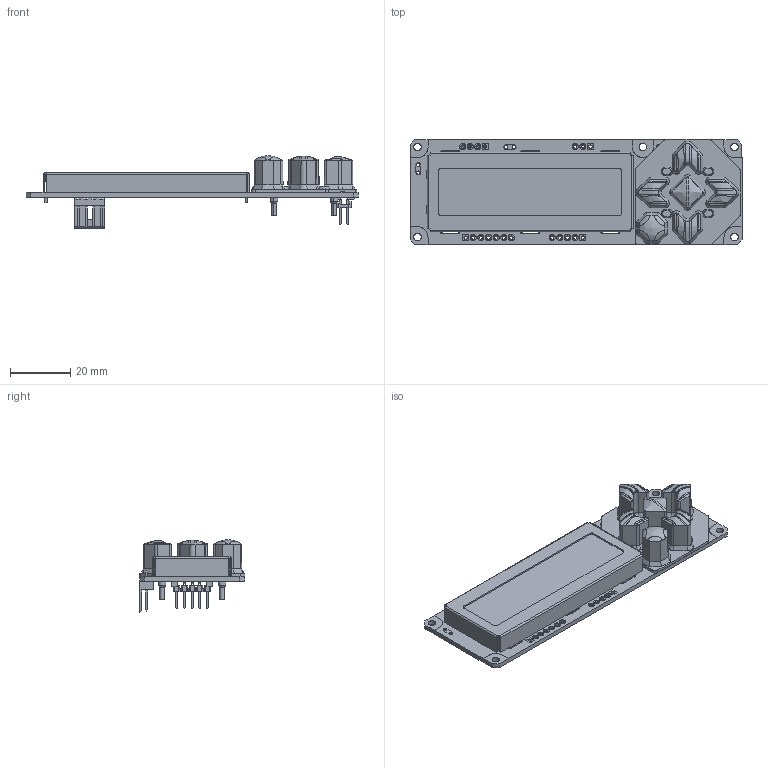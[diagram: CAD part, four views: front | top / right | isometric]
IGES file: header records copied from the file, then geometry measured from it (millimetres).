
Start section: SolidWorks IGES file using analytic representation for surfaces
Global section: file name: C:\scratch\CFA533_assy\CFA533xxxKS.IGS; native system: SolidWorks 2012; preprocessor: SolidWorks 2012; author: brian; date: 121128.142747; units: millimetre
Bounding box: 110.5 x 35.24 x 24.3 mm (x, y, z)
Surface area: 18482.2 mm2 (no closed solid volume)
Topology: 0 solids, 0 shells, 1001 faces, 11390 edges, 11381 vertices
Faces by surface type: bspline 774, revolution 227
